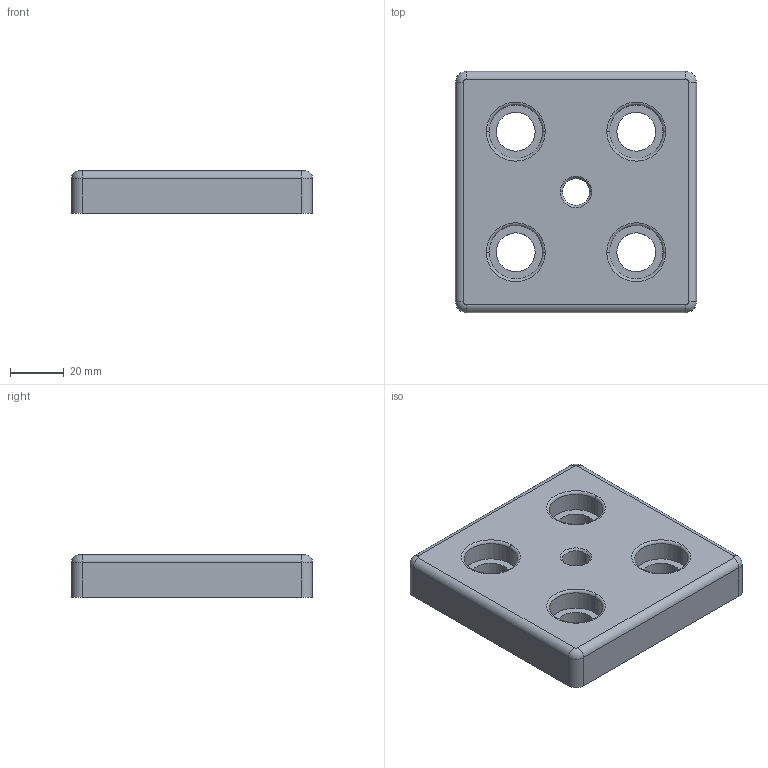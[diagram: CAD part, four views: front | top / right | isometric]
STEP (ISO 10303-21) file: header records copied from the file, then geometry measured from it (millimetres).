
FILE_DESCRIPTION (( 'STEP AP203' ), '1' );
FILE_NAME ('0110FP9090M12.STEP', '2024-09-06T09:42:28', ( 'Windows-Benutzer' ), ( '' ), 'SwSTEP 2.0', 'SolidWorks 2024', '' );
FILE_SCHEMA (( 'CONFIG_CONTROL_DESIGN' ));
Length unit declared in the file: millimetre
Products named in the file (1): 0110FP9090M12
Bounding box: 90 x 90 x 16 mm (x, y, z)
Volume: 75206 mm3; surface area: 31617.1 mm2
Topology: 1 solids, 1 shells, 183 faces, 479 edges, 290 vertices
Faces by surface type: cylinder 89, torus 29, plane 27, sphere 20, bspline 16, cone 2
Entity records: 8197 total; most frequent: CARTESIAN_POINT 4083, ORIENTED_EDGE 884, DIRECTION 785, EDGE_CURVE 442, AXIS2_PLACEMENT_3D 324, VERTEX_POINT 270, EDGE_LOOP 202, FACE_OUTER_BOUND 183
